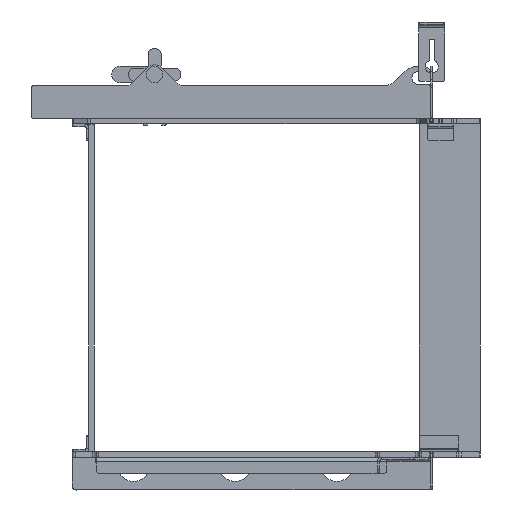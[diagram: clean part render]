
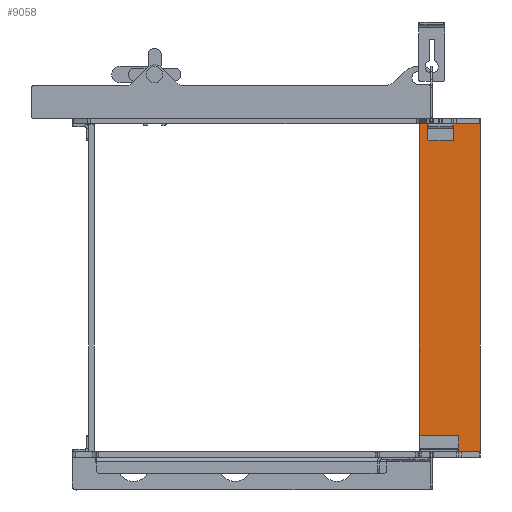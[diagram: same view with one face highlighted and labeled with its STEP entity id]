
A CAD part, left-side view. The second image highlights one B-rep face of the part: STEP entity #9058.
In plain terms, the highlighted planar face has unit normal (-1, 0, 0).
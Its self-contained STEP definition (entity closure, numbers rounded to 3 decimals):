
#390=PLANE('',#9794);
#759=FACE_OUTER_BOUND('',#1271,.T.);
#1271=EDGE_LOOP('',(#7067,#7068,#7069,#7070,#7071,#7072,#7073,#7074));
#1930=LINE('',#14171,#2804);
#1936=LINE('',#14191,#2810);
#1939=LINE('',#14199,#2813);
#1941=LINE('',#14205,#2815);
#2804=VECTOR('',#11461,10.);
#2810=VECTOR('',#11481,10.);
#2813=VECTOR('',#11490,10.);
#2815=VECTOR('',#11498,10.);
#3497=CIRCLE('',#9778,1.);
#3502=CIRCLE('',#9786,1.);
#3503=CIRCLE('',#9789,1.);
#3504=CIRCLE('',#9792,1.);
#4105=VERTEX_POINT('',#14158);
#4106=VERTEX_POINT('',#14159);
#4110=VERTEX_POINT('',#14169);
#4116=VERTEX_POINT('',#14185);
#4117=VERTEX_POINT('',#14189);
#4118=VERTEX_POINT('',#14193);
#4119=VERTEX_POINT('',#14197);
#4120=VERTEX_POINT('',#14201);
#5150=EDGE_CURVE('',#4105,#4106,#3497,.T.);
#5156=EDGE_CURVE('',#4110,#4105,#1930,.T.);
#5163=EDGE_CURVE('',#4116,#4110,#3502,.T.);
#5166=EDGE_CURVE('',#4117,#4116,#1936,.T.);
#5167=EDGE_CURVE('',#4118,#4117,#3503,.T.);
#5170=EDGE_CURVE('',#4119,#4118,#1939,.T.);
#5171=EDGE_CURVE('',#4120,#4119,#3504,.T.);
#5173=EDGE_CURVE('',#4106,#4120,#1941,.T.);
#7067=ORIENTED_EDGE('',*,*,#5150,.F.);
#7068=ORIENTED_EDGE('',*,*,#5156,.F.);
#7069=ORIENTED_EDGE('',*,*,#5163,.F.);
#7070=ORIENTED_EDGE('',*,*,#5166,.F.);
#7071=ORIENTED_EDGE('',*,*,#5167,.F.);
#7072=ORIENTED_EDGE('',*,*,#5170,.F.);
#7073=ORIENTED_EDGE('',*,*,#5171,.F.);
#7074=ORIENTED_EDGE('',*,*,#5173,.F.);
#9058=ADVANCED_FACE('',(#759),#390,.T.);
#9778=AXIS2_PLACEMENT_3D('',#14160,#11451,#11452);
#9786=AXIS2_PLACEMENT_3D('',#14186,#11475,#11476);
#9789=AXIS2_PLACEMENT_3D('',#14194,#11484,#11485);
#9792=AXIS2_PLACEMENT_3D('',#14202,#11493,#11494);
#9794=AXIS2_PLACEMENT_3D('',#14206,#11499,#11500);
#11451=DIRECTION('center_axis',(1.,0.,0.));
#11452=DIRECTION('ref_axis',(0.,0.707,-0.707));
#11461=DIRECTION('',(0.,1.,0.));
#11475=DIRECTION('center_axis',(1.,0.,0.));
#11476=DIRECTION('ref_axis',(0.,-0.707,-0.707));
#11481=DIRECTION('',(0.,0.,-1.));
#11484=DIRECTION('center_axis',(1.,0.,0.));
#11485=DIRECTION('ref_axis',(0.,-0.707,0.707));
#11490=DIRECTION('',(0.,-1.,0.));
#11493=DIRECTION('center_axis',(1.,0.,0.));
#11494=DIRECTION('ref_axis',(0.,0.707,0.707));
#11498=DIRECTION('',(0.,0.,1.));
#11499=DIRECTION('center_axis',(-1.,0.,0.));
#11500=DIRECTION('ref_axis',(0.,-1.,0.));
#14158=CARTESIAN_POINT('',(0.,92.,-499.));
#14159=CARTESIAN_POINT('',(0.,93.,-498.));
#14160=CARTESIAN_POINT('Origin',(0.,92.,
-498.));
#14169=CARTESIAN_POINT('',(0.,1.,-499.));
#14171=CARTESIAN_POINT('',(0.,93.,-499.));
#14185=CARTESIAN_POINT('',(0.,0.,
-498.));
#14186=CARTESIAN_POINT('Origin',(0.,1.,
-498.));
#14189=CARTESIAN_POINT('',(0.,0.,-1.));
#14191=CARTESIAN_POINT('',(0.,0.,
-499.));
#14193=CARTESIAN_POINT('',(0.,1.,0.));
#14194=CARTESIAN_POINT('Origin',(0.,1.,
-1.));
#14197=CARTESIAN_POINT('',(0.,92.,0.));
#14199=CARTESIAN_POINT('',(0.,0.,0.));
#14201=CARTESIAN_POINT('',(0.,93.,-1.));
#14202=CARTESIAN_POINT('Origin',(0.,92.,
-1.));
#14205=CARTESIAN_POINT('',(0.,93.,0.));
#14206=CARTESIAN_POINT('Origin',(0.,46.5,-249.5));
